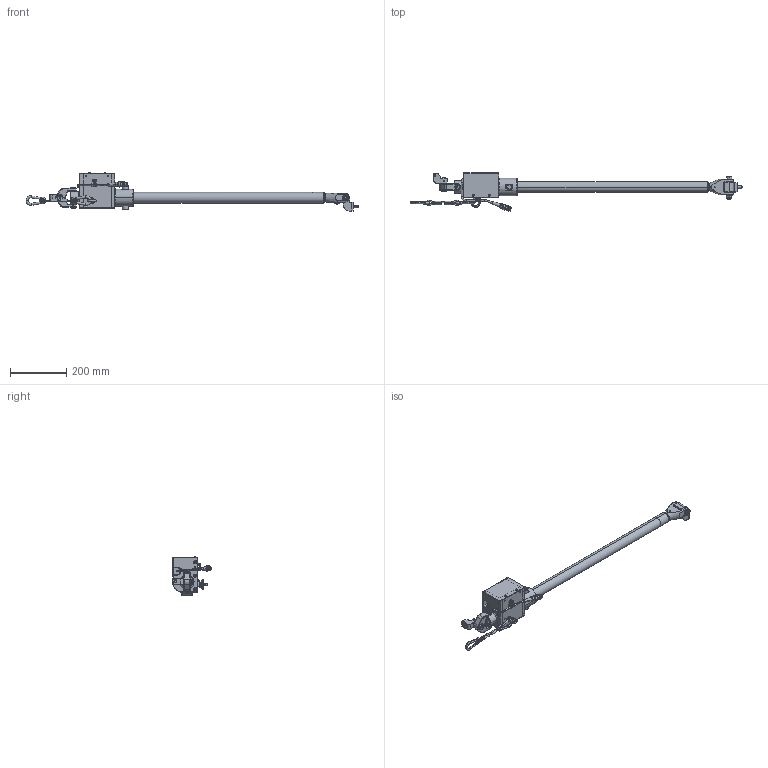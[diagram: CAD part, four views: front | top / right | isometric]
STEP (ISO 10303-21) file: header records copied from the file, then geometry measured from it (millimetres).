
FILE_DESCRIPTION((''),'2;1');
FILE_NAME('6158116820_TRA100_P_2100_ASM','2013-07-08T',('greextsd'),(''),'PRO/ENGINEER BY PARAMETRIC TECHNOLOGY CORPORATION, 2012420','PRO/ENGINEER BY PARAMETRIC TECHNOLOGY CORPORATION, 2012420','');
FILE_SCHEMA(('CONFIG_CONTROL_DESIGN'));
Length unit declared in the file: millimetre
Products named in the file (47): 6158101700_AF0; 4390152306_AF0; 4390152209; 6158101740_AF0_ASM_ASM; 4390152307_AF1; 4390152382_AF0_ASM_ASM; 4390152308_AF0; 4390152383_ASM_ASM; 6158101710; PLMC_0108120200; 6158102080; 6158102090; 605_57; 6158101770_AF0_ASM_ASM; 6158117110; 6158117040; 6158117100; 6156160150; 6158117010_ASM_ASM; 6158101690; 4390152216; 4390152202; 4390151803; 4390151800; PLMC_0196155291; 6158117520; 6158117210; 6156120460; 4390152204; 6158117250; 6158117230; BMMS_K50_CAB_CURV; 6158116570_ASM_ASM; ULS_M4X10_; 6158101790; 6156160050; 6156110300; 6158101800_ASM_ASM; 6158111360; 6156160140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
Assembly tree (59 placements, depth 5):
  6158116820_TRA100_P_2100_ASM
    6158116820_ASM_ASM
      6158101770_AF0_ASM_ASM
        6158101740_AF0_ASM_ASM
          6158101700_AF0
          4390152306_AF0
          4390152209
        4390152382_AF0_ASM_ASM
          4390152307_AF1
        4390152383_ASM_ASM
          4390152308_AF0
        6158101710
        PLMC_0108120200
        6158102080
        6158102090
        605_57
      6158117010_ASM_ASM
        6158117110
        6158117040
        6158117100
        6156160150  x6
      6158101690
      4390152216  x2
      4390152202  x2
      4390151803
      4390151800
      PLMC_0196155291  x2
      6158117520  x2
      6158117210
      6156120460
      4390152204
      6158117250
      6158117230
      6158116570_ASM_ASM
        BMMS_K50_CAB_CURV
      ULS_M4X10_  x4
      6158101800_ASM_ASM
        6158101790
        6156160050
        6156110300
      6158111360
      6156160140
      6158117470
      6158117460_ASM_ASM
        6158117440  x2
        6158117450
      6156583530
Bounding box: 1181 x 136.41 x 137 mm (x, y, z)
Volume: 1234255.3 mm3; surface area: 726472.7 mm2
Topology: 50 solids, 77 shells, 1532 faces, 3895 edges, 2481 vertices
Faces by surface type: cylinder 591, plane 532, torus 178, cone 172, bspline 40, sphere 19
Entity records: 45029 total; most frequent: CARTESIAN_POINT 11780, DIRECTION 7357, ORIENTED_EDGE 6412, EDGE_CURVE 3267, AXIS2_PLACEMENT_3D 2992, VERTEX_POINT 2104, CIRCLE 1560, EDGE_LOOP 1509
